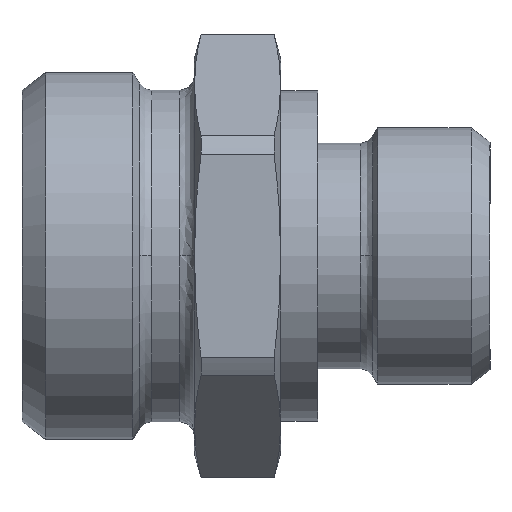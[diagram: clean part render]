
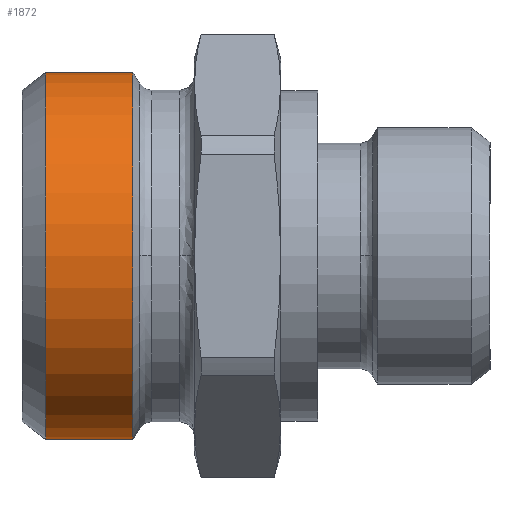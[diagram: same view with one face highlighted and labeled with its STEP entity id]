
A CAD part, top view. The second image highlights one B-rep face of the part: STEP entity #1872.
In plain terms, the highlighted cylindrical face has radius 14.91 mm (diameter 29.82 mm), a partial arc.
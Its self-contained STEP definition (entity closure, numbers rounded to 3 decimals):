
#908=CARTESIAN_POINT('',(0.,-14.91,15.563));
#909=VERTEX_POINT('',#908);
#910=CARTESIAN_POINT('',(0.,-14.91,8.493));
#911=VERTEX_POINT('',#910);
#912=CARTESIAN_POINT('',(0.,-14.91,15.563));
#913=DIRECTION('',(0.0,0.0,-1.0));
#914=VECTOR('',#913,7.07);
#915=LINE('',#912,#914);
#916=EDGE_CURVE('',#909,#911,#915,.T.);
#918=CARTESIAN_POINT('',(0.,14.91,15.563));
#919=VERTEX_POINT('',#918);
#927=CARTESIAN_POINT('',(0.,14.91,8.493));
#928=VERTEX_POINT('',#927);
#929=CARTESIAN_POINT('',(0.,14.91,8.493));
#930=DIRECTION('',(0.0,0.0,1.0));
#931=VECTOR('',#930,7.07);
#932=LINE('',#929,#931);
#933=EDGE_CURVE('',#928,#919,#932,.T.);
#1748=CARTESIAN_POINT('',(0.,0.,8.493));
#1749=DIRECTION('',(0.0,0.0,-1.0));
#1750=DIRECTION('',(0.0,-1.0,0.0));
#1751=AXIS2_PLACEMENT_3D('',#1748,#1749,#1750);
#1752=CIRCLE('',#1751,14.91);
#1753=EDGE_CURVE('',#928,#911,#1752,.T.);
#1849=CARTESIAN_POINT('',(0.,0.,15.563));
#1850=DIRECTION('',(0.0,0.0,-1.0));
#1851=DIRECTION('',(0.0,-1.0,0.0));
#1852=AXIS2_PLACEMENT_3D('',#1849,#1850,#1851);
#1853=CIRCLE('',#1852,14.91);
#1854=EDGE_CURVE('',#919,#909,#1853,.T.);
#1861=CARTESIAN_POINT('',(0.,0.,12.028));
#1862=DIRECTION('',(0.,0.,-1.0));
#1863=DIRECTION('',(0.0,-1.0,0.0));
#1864=AXIS2_PLACEMENT_3D('',#1861,#1862,#1863);
#1865=CYLINDRICAL_SURFACE('',#1864,14.91);
#1866=ORIENTED_EDGE('',*,*,#916,.T.);
#1867=ORIENTED_EDGE('',*,*,#1753,.F.);
#1868=ORIENTED_EDGE('',*,*,#933,.T.);
#1869=ORIENTED_EDGE('',*,*,#1854,.T.);
#1870=EDGE_LOOP('',(#1866,#1867,#1868,#1869));
#1871=FACE_OUTER_BOUND('',#1870,.T.);
#1872=ADVANCED_FACE('',(#1871),#1865,.T.);
